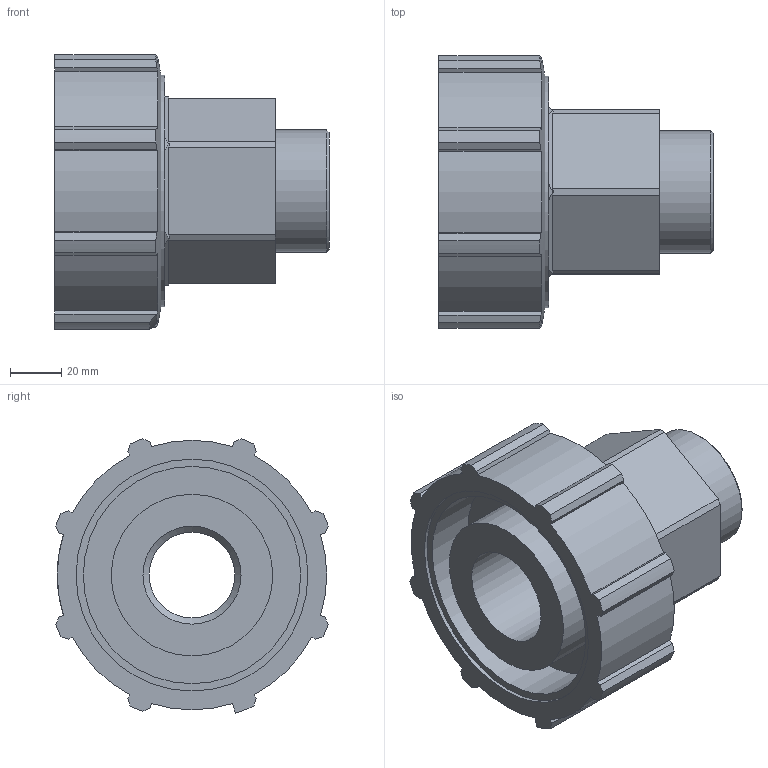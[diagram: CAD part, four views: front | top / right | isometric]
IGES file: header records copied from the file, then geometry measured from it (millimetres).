
Global section: file name: 072700063015_182700063015_72706063015.ipt; native system: Autodesk Inventor 2015; preprocessor: unknown; author: KIM; date: 20170606.172350; units: millimetre
Bounding box: 107 x 106.32 x 107.05 mm (x, y, z)
Volume: 382022.5 mm3; surface area: 74697 mm2
Topology: 1 solids, 1 shells, 92 faces, 258 edges, 174 vertices
Faces by surface type: plane 63, cylinder 20, revolution 6, cone 3
Full cylindrical faces by diameter (mm): 47.803 x1, 63 x1, 73.6 x1, 90.4 x1
